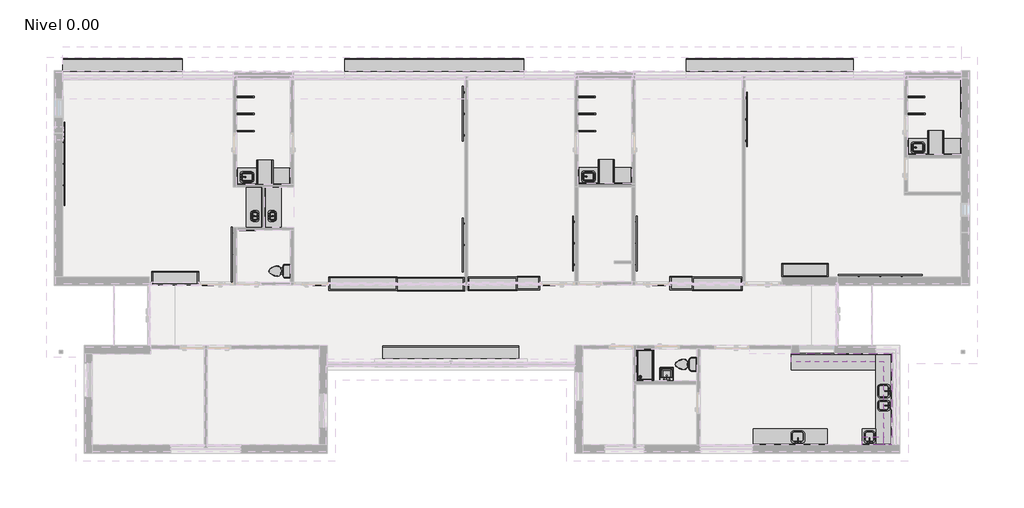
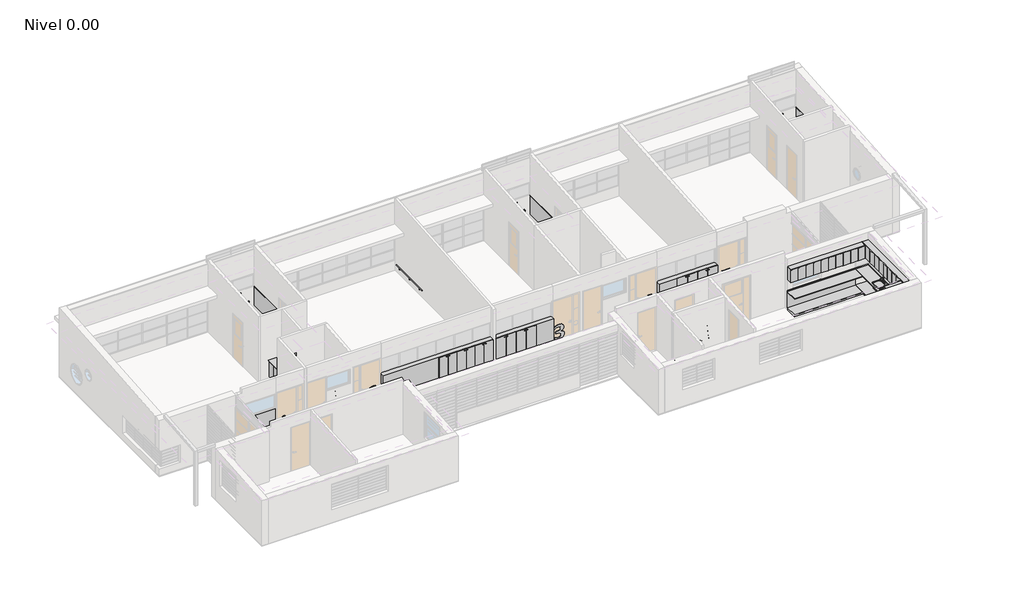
# One storey, part 27 of 27: 32 furniture elements, 31 proxies, 13 flow terminals, 8 railings.
"""IFC4 building model written with IfcOpenShell, lengths in millimetres."""

from ifc_helpers import new_model, si_unit, point, frame, frame_2d, origin, place, context, project, spatial, polyline, circle_curve, trimmed, segment, composite_curve, outline, extrude, transform, mapped, element, save
from components import generic_models_33ff339d, generic_models_d6cf0f50, generic_models_8d675eae, generic_models_3f5acc9a, m_support_metal_circular_m_support_metal_circular_0da74429, flow_terminal_400x300mm_7964804b, flow_terminal_400x300mm_a22b8487, flow_terminal_400x500mm_d8bb822e, flow_terminal_400x440x750mm_a241357f, flow_terminal_400x500x125mm_b4930f80, flow_terminal_500x440x750mm_21f9f58f, flow_terminal_650x1200mm_124ab80b, m_toilet_domestic_3d_5cb52bd4, m_toilet_domestic_3d_183bbd19, furniture_e9a0386f, furniture_bf1a8815, furniture_e75571a7, furniture_ace2ff6d, furniture_eb19d553, furniture_5edcbb02, furniture_b7d6b4a0, furniture_0b69f997, furniture_ac1298f6, furniture_628cf03d, furniture_7d591ccb, furniture_01e2f433, furniture_78a649b8, furniture_1400x900x10_f33f94d3, furniture_1800x900x10_4b911792, furniture_600x1200x10_10085fb0

model = new_model("IFC4")

# Units and contexts
model_context = context("Model", 3, world=origin())
ifc_project = project(units=[si_unit("LENGTHUNIT", "METRE", prefix="MILLI")], contexts=[model_context])

# Site, building, storey
site = spatial("IfcSite", under=ifc_project)
building = spatial("IfcBuilding", under=site)
storey = spatial("IfcBuildingStorey", under=building, Name="Nivel 0.00", Elevation=0.0)

# Proxies
placement = place(None, origin())
element("IfcBuildingElementProxy", 1, Name="700mm CALIBRI", ObjectType="700mm CALIBRI", at=placement, inside=storey, context=model_context, shape_type="SweptSolid", body=[
    extrude(outline(polyline([(254.0711728, -10193.7272676), (279.9312208, -10195.0994334), (296.7138642, -10199.4270333), (306.0023712, -10206.3934135), (308.9578053, -10215.2597157), (308.9578053, -10328.8328244), (886.7451631, -10328.8328244), (894.7670556, -10330.8382975), (899.833514, -10339.0712924), (902.5778456, -10357.3316528), (903.4222553, -10388.7859153), (903.1056017, -10414.540412), (902.0500895, -10430.6897481), (899.9390652, -10440.7171137), (896.455875, -10447.0501867), (798.5043463, -10593.5552748), (790.4824539, -10603.5826404), (780.6661908, -10609.3879573), (766.2056742, -10612.0267377), (744.673226, -10612.5544938), (712.7967587, -10610.9712255), (696.7529739, -10604.9548062), (693.6128252, -10599.730021), (693.4808861, -10592.9219675), (700.7639201, -10573.0783389), (768.3166985, -10463.9383813), (308.9578053, -10463.9383813), (308.9578053, -10591.8664554), (306.0023712, -10600.4161039), (296.7138642, -10606.9602793), (279.9312208, -10611.182328), (254.0711728, -10612.5544938), (228.8444321, -10610.9712255), (212.2728911, -10606.4325232), (203.5121402, -10599.7827966), (200.8733598, -10591.8664554), (200.8733598, -10214.8375108), (203.5121402, -10206.4989648), (212.2728911, -10199.8492381), (228.8444321, -10195.3105358), (254.0711728, -10193.7272676)])), frame((0.0, -850.6093113, 0.0), z_axis=(0.0, 1.0, 0.0), x_axis=(0.0, 0.0, 1.0)), (0.0, 0.0, 1.0), 10.0),
])
element("IfcBuildingElementProxy", 2, Name="700mm CALIBRI", ObjectType="700mm CALIBRI", at=placement, inside=storey, context=model_context, shape_type="SweptSolid", body=[
    extrude(outline(polyline([(261.8819628, -6030.8088472), (289.6419327, -6032.3921154), (308.5356004, -6037.2474714), (319.090722, -6045.0582614), (322.4683609, -6054.8745245), (322.4683609, -6328.0410722), (406.909334, -6246.9777381), (463.5903371, -6191.774452), (512.8827551, -6148.6040046), (556.5017952, -6115.6456373), (596.1626647, -6091.0785917), (632.5778344, -6074.1903971), (666.4597748, -6064.2685828), (699.3125908, -6059.4396146), (732.6403874, -6057.8299586), (770.4277228, -6061.1812097), (805.681829, -6071.234963), (837.3735817, -6088.0967698), (864.4738565, -6111.8721813), (886.5340607, -6142.613973), (903.1056017, -6180.3749207), (913.4760087, -6225.1022486), (916.932811, -6276.7431811), (915.2439915, -6310.9417752), (910.1775332, -6343.8737547), (893.6059922, -6402.8768846), (873.3401587, -6447.8417027), (856.7686177, -6472.9628922), (846.3190473, -6482.5680529), (836.1861306, -6486.8956527), (822.4644724, -6489.3233307), (802.9374974, -6490.1677404), (773.5942593, -6488.7955746), (754.4894892, -6485.3123845), (744.3565724, -6479.71817), (741.2955871, -6471.3796239), (749.8452356, -6452.0637514), (768.6333521, -6421.2427962), (787.104815, -6378.3890024), (793.2795611, -6352.185913), (795.3378099, -6322.3413066), (793.4906636, -6301.3893901), (787.9492247, -6283.2873565), (779.1884738, -6268.0352058), (767.6833912, -6255.6329379), (753.6714672, -6246.0013894), (737.3901921, -6239.0613969), (700.5528176, -6233.4671824), (660.4433555, -6238.0058847), (614.2119227, -6254.8940794), (558.691983, -6289.3037759), (491.350307, -6347.2513936), (360.2556964, -6467.7908826), (338.617697, -6485.1012821), (318.3518635, -6496.1841598), (294.7083911, -6502.0950279), (262.7263725, -6503.6782961), (230.744354, -6501.2506181), (211.8506863, -6493.3342769), (203.0899353, -6479.1904139), (200.8733598, -6458.5023755), (200.8733598, -6053.185705), (204.0398963, -6043.3694419), (214.5950179, -6036.2975104), (233.699788, -6032.181013), (261.8819628, -6030.8088472)])), frame((0.0, -850.6078399, 0.0), z_axis=(0.0, 1.0, 0.0), x_axis=(0.0, 0.0, 1.0)), (0.0, 0.0, 1.0), 10.0),
])
element("IfcBuildingElementProxy", 3, Name="700mm CALIBRI", ObjectType="700mm CALIBRI", at=placement, inside=storey, context=model_context, shape_type="SweptSolid", body=[
    extrude(outline(polyline([(409.864768, 2509.806752), (440.9232134, 2507.1415838), (469.9234101, 2499.1460792), (496.4431532, 2486.1632796), (520.0602378, 2468.5362265), (540.3524591, 2446.3704711), (556.8976123, 2419.7715646), (569.0096144, 2389.0825484), (576.0023824, 2354.6464641), (577.6912019, 2354.6464641), (586.9797089, 2384.2535803), (600.0680597, 2410.1664039), (616.6659885, 2432.2266081), (636.4832294, 2450.2758661), (659.3614555, 2464.3669534), (685.1423401, 2474.5526458), (713.430066, 2480.727392), (743.8288163, 2482.7856407), (782.3286224, 2479.2496749), (816.7647068, 2468.6417777), (846.6093132, 2451.1466636), (871.3346856, 2426.9490473), (890.8880484, 2396.1808677), (905.216626, 2358.974064), (914.0037648, 2315.6189019), (916.932811, 2266.4056473), (915.2176037, 2227.7739022), (910.0719819, 2192.0975911), (893.3948898, 2131.7222953), (873.2346075, 2088.3407455), (858.0352323, 2065.5416827), (849.0633789, 2057.4142391), (839.2471158, 2053.1921904), (825.1032528, 2050.9756149), (803.7819072, 2050.4478588), (778.4496152, 2051.6089222), (763.5668938, 2055.0921123), (756.6005135, 2060.8974292), (754.8061428, 2069.0248729), (763.4613425, 2090.557321), (782.1439078, 2126.4447345), (800.5098195, 2174.1538843), (806.763729, 2201.5972005), (808.8483655, 2230.7293362), (807.1595461, 2255.5866476), (802.0930877, 2276.9607689), (794.1239709, 2294.7989245), (783.7271761, 2309.0483387), (771.0610301, 2319.9728896), (756.2838598, 2327.8364552), (739.9761969, 2332.5862599), (722.7185731, 2334.1695282), (700.5264298, 2331.8737892), (680.3925353, 2324.9865723), (662.6863188, 2313.6925922), (647.7772095, 2298.1765634), (635.8235343, 2278.4912616), (626.9836199, 2254.6894623), (621.5213445, 2226.9558802), (619.700586, 2195.47523), (619.700586, 2130.4556807), (617.4840104, 2118.6339445), (609.6732204, 2110.6120521), (593.7349868, 2105.9677986), (567.1360803, 2104.4900815), (538.7428031, 2105.8622474), (521.7490573, 2110.6120521), (513.6216136, 2118.9505982), (511.6161405, 2131.088988), (511.6161405, 2192.9420008), (509.6106674, 2229.6474362), (503.5942481, 2261.2336377), (493.909924, 2287.7533808), (480.9007366, 2309.2594411), (464.7514005, 2325.9365333), (445.6466303, 2337.9693719), (423.7711408, 2345.2524059), (399.3096464, 2347.6800838), (376.7744617, 2345.6746107), (356.4558526, 2339.6581914), (338.6968604, 2329.5516625), (323.8405267, 2315.2758604), (311.9132393, 2297.2002147), (302.9413859, 2275.6941543), (297.3207837, 2250.6257405), (295.4472496, 2221.863034), (297.5846617, 2187.8755424), (303.9968981, 2157.6878945), (322.4683609, 2108.3954765), (340.9398238, 2073.7746776), (349.4894723, 2054.6699075), (346.9034675, 2046.9118931), (339.1454531, 2041.3704542), (324.6849365, 2038.0455909), (301.991425, 2036.9373031), (274.4425575, 2037.7817129), (255.4433386, 2040.5260445), (242.3549878, 2044.8536443), (232.3276222, 2052.2422295), (219.9781299, 2073.0358191), (204.6732036, 2113.1452813), (192.3237113, 2169.1929771), (187.3628041, 2237.0624092), (191.0307089, 2294.2975562), (202.0344232, 2346.9412253), (220.110069, 2393.7004141), (244.9937682, 2433.2821202), (276.5799697, 2465.3433022), (314.7631221, 2489.5409185), (359.2793476, 2504.7402937), (409.864768, 2509.806752)])), frame((0.0, -850.6047653, 0.0), z_axis=(0.0, 1.0, 0.0), x_axis=(0.0, 0.0, 1.0)), (0.0, 0.0, 1.0), 10.0),
])
element("IfcBuildingElementProxy", 4, Name="700mm CALIBRI", ObjectType="700mm CALIBRI", at=placement, inside=storey, context=model_context, shape_type="SweptSolid", body=[
    extrude(outline(polyline([(403.1094902, 6619.1180849), (428.2570674, 6617.61398), (445.013323, 6613.1016655), (454.4337691, 6606.4783267), (457.5739178, 6598.6411489), (457.5739178, 6538.0547508), (880.2009877, 6538.0547508), (890.4394557, 6532.7771899), (897.7224896, 6515.9945466), (902.0500895, 6485.3846938), (903.4222553, 6439.2588123), (902.3667432, 6396.1939161), (898.883553, 6366.850678), (892.8671337, 6348.80142), (884.4230364, 6339.8295666), (499.7944043, 6123.4495732), (481.0062878, 6114.5832711), (462.2181713, 6109.200159), (440.0524159, 6106.5613786), (411.1313826, 6105.7169689), (378.4105056, 6107.6168908), (359.6223891, 6113.5277589), (351.283843, 6123.4495732), (349.4894723, 6136.9601289), (349.4894723, 6402.9491939), (222.6169103, 6402.9491939), (213.1173009, 6405.904628), (206.362023, 6416.5653008), (202.2455256, 6437.3588904), (200.8733598, 6469.6575626), (202.2455256, 6502.8006445), (206.362023, 6523.6997853), (213.1173009, 6534.8882143), (222.6169103, 6538.0547508), (349.4894723, 6538.0547508), (349.4894723, 6598.6411489), (352.893499, 6607.1380218), (363.1055792, 6613.6294216), (379.9146104, 6617.745919), (403.1094902, 6619.1180849)]), holes=[polyline([(781.8272542, 6402.9491939), (457.5739178, 6402.9491939), (457.5739178, 6213.8014144), (781.8272542, 6402.9491939)])]), frame((0.0, -850.6093113, 0.0), z_axis=(0.0, 1.0, 0.0), x_axis=(0.0, 0.0, 1.0)), (0.0, 0.0, 1.0), 10.0),
])
element("IfcBuildingElementProxy", 5, Name="700mm CALIBRI", ObjectType="700mm CALIBRI", at=placement, inside=storey, context=model_context, shape_type="SweptSolid", body=[
    extrude(outline(polyline([(428.0195772, 10166.0125104), (475.4384611, 10162.1335032), (516.7881501, 10150.4964816), (551.9630929, 10131.3917114), (580.8577384, 10105.1094586), (603.4984743, 10071.781662), (619.9116884, 10031.5402608), (629.8862783, 9984.6755208), (633.2111417, 9931.4777078), (632.6833856, 9892.529309), (630.0446052, 9855.2697296), (781.8272542, 9855.2697296), (781.8272542, 10103.3150879), (785.4687711, 10112.8146974), (796.393322, 10119.7810776), (815.4453166, 10124.0559019), (843.4691645, 10125.4808433), (871.3346856, 10124.1086775), (889.9116996, 10119.7810776), (900.1501676, 10112.3924925), (903.4222553, 10103.1039855), (903.4222553, 9769.1399372), (901.0209652, 9753.0961523), (893.8170946, 9742.1188258), (881.1773365, 9735.7857528), (862.4683834, 9733.6747285), (555.7365489, 9733.6747285), (537.7664543, 9735.3899358), (526.498862, 9740.5355575), (520.5616061, 9749.63935), (518.5825208, 9763.229069), (521.8546085, 9812.3103846), (525.1266962, 9870.0468999), (523.3323255, 9906.9634378), (517.9492135, 9937.916332), (508.9509723, 9963.2750117), (496.3112141, 9983.4089062), (480.2674293, 9998.6082813), (461.0571079, 10009.163403), (438.8121891, 10015.3381491), (413.6646118, 10017.3963978), (384.822742, 10014.9423321), (360.3612476, 10007.5801347), (339.9898628, 9995.7056229), (323.4183219, 9979.7146136), (310.7521759, 9959.6862703), (302.0969762, 9935.6997564), (297.1096812, 9908.3092158), (295.4472496, 9878.0687924), (297.0305178, 9844.1340763), (301.7803225, 9815.3713699), (315.7130831, 9770.8287566), (329.6458436, 9741.2744161), (335.9789166, 9724.5973239), (333.234585, 9717.1031875), (323.946078, 9711.2978706), (306.7412297, 9707.7091293), (280.8811817, 9706.6536171), (256.3932995, 9707.1813732), (239.1884513, 9709.0812951), (227.4722663, 9712.5644852), (218.5004129, 9719.3197631), (209.3174571, 9738.8467381), (199.0789891, 9777.0562784), (190.6348918, 9829.6207841), (187.3628041, 9891.3682456), (191.4265259, 9950.3977633), (203.6176914, 10003.7802909), (223.4877079, 10050.7241944), (250.5879827, 10090.4378395), (284.8129645, 10122.4462458), (326.0571023, 10146.2744329), (373.9245789, 10161.077991), (428.0195772, 10166.0125104)])), frame((0.0, -860.5891831, 0.0), z_axis=(0.0, 1.0, 0.0), x_axis=(0.0, 0.0, 1.0)), (0.0, 0.0, 1.0), 10.0),
])
generic_models_shape = generic_models_33ff339d(model_context)
element("IfcBuildingElementProxy", 6, Name="ARQ_BANCA_T3 : ARQ_BANCA_T3", ObjectType="ARQ_BANCA_T3 : ARQ_BANCA_T3", at=placement, inside=storey, context=model_context, shape_type="MappedRepresentation", body=[
    mapped(generic_models_shape, transform((-13580.5250276, 7109.43912, 0.0), x_axis=(1.0, 0.0, 0.0), y_axis=(0.0, 1.0, 0.0), z_axis=(0.0, 0.0, 1.0))),
])
generic_models_2_shape = generic_models_d6cf0f50(model_context)
element("IfcBuildingElementProxy", 7, Name="ARQ_BANCA_T3 : ARQ_BANCA_T3", ObjectType="ARQ_BANCA_T3 : ARQ_BANCA_T3", at=placement, inside=storey, context=model_context, shape_type="MappedRepresentation", body=[
    mapped(generic_models_2_shape, transform((-1990.3268072, 7109.43912, 0.0), x_axis=(1.0, 0.0, 0.0), y_axis=(0.0, 1.0, 0.0), z_axis=(0.0, 0.0, 1.0))),
])
generic_models_3_shape = generic_models_8d675eae(model_context)
element("IfcBuildingElementProxy", 8, Name="ARQ_BANCA_T3 : ARQ_BANCA_T3", ObjectType="ARQ_BANCA_T3 : ARQ_BANCA_T3", at=placement, inside=storey, context=model_context, shape_type="MappedRepresentation", body=[
    mapped(generic_models_3_shape, transform((10479.8052391, 7109.43912, 0.0), x_axis=(1.0, 0.0, 0.0), y_axis=(0.0, 1.0, 0.0), z_axis=(0.0, 0.0, 1.0))),
])
generic_models_4_shape = generic_models_3f5acc9a(model_context)
element("IfcBuildingElementProxy", 9, Name="ARQ_BANCA_T3 : ARQ_BANCA_T3", ObjectType="ARQ_BANCA_T3 : ARQ_BANCA_T3", at=placement, inside=storey, context=model_context, shape_type="MappedRepresentation", body=[
    mapped(generic_models_4_shape, transform((-1371.1221231, -3590.5609004, 0.0), x_axis=(1.0, 0.0, 0.0), y_axis=(0.0, 1.0, 0.0), z_axis=(0.0, 0.0, 1.0))),
])
m_support_metal_circular_m_support_metal_circular_shape = m_support_metal_circular_m_support_metal_circular_0da74429(model_context)
element("IfcBuildingElementProxy", 10, Name="M_Support - Metal - Circular : M_Support - Metal - Circular", ObjectType="M_Support - Metal - Circular : M_Support - Metal - Circular", at=placement, inside=storey, context=model_context, shape_type="MappedRepresentation", body=[
    mapped(m_support_metal_circular_m_support_metal_circular_shape, transform((-15740.8995201, 2870.7462456, 420.0), x_axis=(0.0, 1.0, 0.0), y_axis=(-1.0, 0.0, 0.0), z_axis=(0.0, 0.0, 1.0))),
])
element("IfcBuildingElementProxy", 11, Name="M_Support - Metal - Circular : M_Support - Metal - Circular", ObjectType="M_Support - Metal - Circular : M_Support - Metal - Circular", at=placement, inside=storey, context=model_context, shape_type="MappedRepresentation", body=[
    mapped(m_support_metal_circular_m_support_metal_circular_shape, transform((-15740.8995201, 3670.7462456, 420.0), x_axis=(0.0, 1.0, 0.0), y_axis=(-1.0, 0.0, 0.0), z_axis=(0.0, 0.0, 1.0))),
])
element("IfcBuildingElementProxy", 12, Name="M_Support - Metal - Circular : M_Support - Metal - Circular", ObjectType="M_Support - Metal - Circular : M_Support - Metal - Circular", at=placement, inside=storey, context=model_context, shape_type="MappedRepresentation", body=[
    mapped(m_support_metal_circular_m_support_metal_circular_shape, transform((-15740.8995201, 4470.7462456, 420.0), x_axis=(0.0, 1.0, 0.0), y_axis=(-1.0, 0.0, 0.0), z_axis=(0.0, 0.0, 1.0))),
])
element("IfcBuildingElementProxy", 13, Name="M_Support - Metal - Circular : M_Support - Metal - Circular", ObjectType="M_Support - Metal - Circular : M_Support - Metal - Circular", at=placement, inside=storey, context=model_context, shape_type="MappedRepresentation", body=[
    mapped(m_support_metal_circular_m_support_metal_circular_shape, transform((-9520.5924627, 1100.0982443, 420.0), x_axis=(0.0, -1.0, 0.0), y_axis=(1.0, 0.0, 0.0), z_axis=(0.0, 0.0, 1.0))),
])
element("IfcBuildingElementProxy", 14, Name="M_Support - Metal - Circular : M_Support - Metal - Circular", ObjectType="M_Support - Metal - Circular : M_Support - Metal - Circular", at=placement, inside=storey, context=model_context, shape_type="MappedRepresentation", body=[
    mapped(m_support_metal_circular_m_support_metal_circular_shape, transform((-9520.5924627, 300.0982443, 420.0), x_axis=(0.0, -1.0, 0.0), y_axis=(1.0, 0.0, 0.0), z_axis=(0.0, 0.0, 1.0))),
])
element("IfcBuildingElementProxy", 15, Name="M_Support - Metal - Circular : M_Support - Metal - Circular", ObjectType="M_Support - Metal - Circular : M_Support - Metal - Circular", at=placement, inside=storey, context=model_context, shape_type="MappedRepresentation", body=[
    mapped(m_support_metal_circular_m_support_metal_circular_shape, transform((-930.5693128, 1451.7268932, 420.0), x_axis=(0.0, -1.0, 0.0), y_axis=(1.0, 0.0, 0.0), z_axis=(0.0, 0.0, 1.0))),
])
element("IfcBuildingElementProxy", 16, Name="M_Support - Metal - Circular : M_Support - Metal - Circular", ObjectType="M_Support - Metal - Circular : M_Support - Metal - Circular", at=placement, inside=storey, context=model_context, shape_type="MappedRepresentation", body=[
    mapped(m_support_metal_circular_m_support_metal_circular_shape, transform((-930.5693128, 651.7268932, 420.0), x_axis=(0.0, -1.0, 0.0), y_axis=(1.0, 0.0, 0.0), z_axis=(0.0, 0.0, 1.0))),
])
element("IfcBuildingElementProxy", 17, Name="M_Support - Metal - Circular : M_Support - Metal - Circular", ObjectType="M_Support - Metal - Circular : M_Support - Metal - Circular", at=placement, inside=storey, context=model_context, shape_type="MappedRepresentation", body=[
    mapped(m_support_metal_circular_m_support_metal_circular_shape, transform((-930.5693128, 6335.5914588, 420.0), x_axis=(0.0, -1.0, 0.0), y_axis=(1.0, 0.0, 0.0), z_axis=(0.0, 0.0, 1.0))),
])
element("IfcBuildingElementProxy", 18, Name="M_Support - Metal - Circular : M_Support - Metal - Circular", ObjectType="M_Support - Metal - Circular : M_Support - Metal - Circular", at=placement, inside=storey, context=model_context, shape_type="MappedRepresentation", body=[
    mapped(m_support_metal_circular_m_support_metal_circular_shape, transform((-930.5693128, 5535.5914588, 420.0), x_axis=(0.0, -1.0, 0.0), y_axis=(1.0, 0.0, 0.0), z_axis=(0.0, 0.0, 1.0))),
])
element("IfcBuildingElementProxy", 19, Name="M_Support - Metal - Circular : M_Support - Metal - Circular", ObjectType="M_Support - Metal - Circular : M_Support - Metal - Circular", at=placement, inside=storey, context=model_context, shape_type="MappedRepresentation", body=[
    mapped(m_support_metal_circular_m_support_metal_circular_shape, transform((-930.5693128, 4735.5914588, 420.0), x_axis=(0.0, -1.0, 0.0), y_axis=(1.0, 0.0, 0.0), z_axis=(0.0, 0.0, 1.0))),
])
element("IfcBuildingElementProxy", 20, Name="M_Support - Metal - Circular : M_Support - Metal - Circular", ObjectType="M_Support - Metal - Circular : M_Support - Metal - Circular", at=placement, inside=storey, context=model_context, shape_type="MappedRepresentation", body=[
    mapped(m_support_metal_circular_m_support_metal_circular_shape, transform((3169.3810741, 1513.1228395, 420.0), x_axis=(0.0, -1.0, 0.0), y_axis=(1.0, 0.0, 0.0), z_axis=(0.0, 0.0, 1.0))),
])
element("IfcBuildingElementProxy", 21, Name="M_Support - Metal - Circular : M_Support - Metal - Circular", ObjectType="M_Support - Metal - Circular : M_Support - Metal - Circular", at=placement, inside=storey, context=model_context, shape_type="MappedRepresentation", body=[
    mapped(m_support_metal_circular_m_support_metal_circular_shape, transform((3169.3810741, 713.1228395, 420.0), x_axis=(0.0, -1.0, 0.0), y_axis=(1.0, 0.0, 0.0), z_axis=(0.0, 0.0, 1.0))),
])
element("IfcBuildingElementProxy", 22, Name="M_Support - Metal - Circular : M_Support - Metal - Circular", ObjectType="M_Support - Metal - Circular : M_Support - Metal - Circular", at=placement, inside=storey, context=model_context, shape_type="MappedRepresentation", body=[
    mapped(m_support_metal_circular_m_support_metal_circular_shape, transform((3169.3810741, -86.8771605, 420.0), x_axis=(0.0, -1.0, 0.0), y_axis=(1.0, 0.0, 0.0), z_axis=(0.0, 0.0, 1.0))),
])
element("IfcBuildingElementProxy", 23, Name="M_Support - Metal - Circular : M_Support - Metal - Circular", ObjectType="M_Support - Metal - Circular : M_Support - Metal - Circular", at=placement, inside=storey, context=model_context, shape_type="MappedRepresentation", body=[
    mapped(m_support_metal_circular_m_support_metal_circular_shape, transform((5539.4935517, -86.8771605, 420.0), x_axis=(0.0, 1.0, 0.0), y_axis=(-1.0, 0.0, 0.0), z_axis=(0.0, 0.0, 1.0))),
])
element("IfcBuildingElementProxy", 24, Name="M_Support - Metal - Circular : M_Support - Metal - Circular", ObjectType="M_Support - Metal - Circular : M_Support - Metal - Circular", at=placement, inside=storey, context=model_context, shape_type="MappedRepresentation", body=[
    mapped(m_support_metal_circular_m_support_metal_circular_shape, transform((5539.4935517, 713.1228395, 420.0), x_axis=(0.0, 1.0, 0.0), y_axis=(-1.0, 0.0, 0.0), z_axis=(0.0, 0.0, 1.0))),
])
element("IfcBuildingElementProxy", 25, Name="M_Support - Metal - Circular : M_Support - Metal - Circular", ObjectType="M_Support - Metal - Circular : M_Support - Metal - Circular", at=placement, inside=storey, context=model_context, shape_type="MappedRepresentation", body=[
    mapped(m_support_metal_circular_m_support_metal_circular_shape, transform((5539.4935517, 1513.1228395, 420.0), x_axis=(0.0, 1.0, 0.0), y_axis=(-1.0, 0.0, 0.0), z_axis=(0.0, 0.0, 1.0))),
])
element("IfcBuildingElementProxy", 26, Name="M_Support - Metal - Circular : M_Support - Metal - Circular", ObjectType="M_Support - Metal - Circular : M_Support - Metal - Circular", at=placement, inside=storey, context=model_context, shape_type="MappedRepresentation", body=[
    mapped(m_support_metal_circular_m_support_metal_circular_shape, transform((9639.3567784, 4526.1849169, 420.0), x_axis=(0.0, 1.0, 0.0), y_axis=(-1.0, 0.0, 0.0), z_axis=(0.0, 0.0, 1.0))),
])
element("IfcBuildingElementProxy", 27, Name="M_Support - Metal - Circular : M_Support - Metal - Circular", ObjectType="M_Support - Metal - Circular : M_Support - Metal - Circular", at=placement, inside=storey, context=model_context, shape_type="MappedRepresentation", body=[
    mapped(m_support_metal_circular_m_support_metal_circular_shape, transform((9639.3567784, 5326.1849169, 420.0), x_axis=(0.0, 1.0, 0.0), y_axis=(-1.0, 0.0, 0.0), z_axis=(0.0, 0.0, 1.0))),
])
element("IfcBuildingElementProxy", 28, Name="M_Support - Metal - Circular : M_Support - Metal - Circular", ObjectType="M_Support - Metal - Circular : M_Support - Metal - Circular", at=placement, inside=storey, context=model_context, shape_type="MappedRepresentation", body=[
    mapped(m_support_metal_circular_m_support_metal_circular_shape, transform((9639.3567784, 6126.1849169, 420.0), x_axis=(0.0, 1.0, 0.0), y_axis=(-1.0, 0.0, 0.0), z_axis=(0.0, 0.0, 1.0))),
])
element("IfcBuildingElementProxy", 29, Name="M_Support - Metal - Circular : M_Support - Metal - Circular", ObjectType="M_Support - Metal - Circular : M_Support - Metal - Circular", at=placement, inside=storey, context=model_context, shape_type="MappedRepresentation", body=[
    mapped(m_support_metal_circular_m_support_metal_circular_shape, transform((15390.2121637, -468.1235845, 420.0), x_axis=(-1.0, 0.0, 0.0), y_axis=(0.0, -1.0, 0.0), z_axis=(0.0, 0.0, 1.0))),
])
element("IfcBuildingElementProxy", 30, Name="M_Support - Metal - Circular : M_Support - Metal - Circular", ObjectType="M_Support - Metal - Circular : M_Support - Metal - Circular", at=placement, inside=storey, context=model_context, shape_type="MappedRepresentation", body=[
    mapped(m_support_metal_circular_m_support_metal_circular_shape, transform((14590.2121637, -468.1235845, 420.0), x_axis=(-1.0, 0.0, 0.0), y_axis=(0.0, -1.0, 0.0), z_axis=(0.0, 0.0, 1.0))),
])
element("IfcBuildingElementProxy", 31, Name="M_Support - Metal - Circular : M_Support - Metal - Circular", ObjectType="M_Support - Metal - Circular : M_Support - Metal - Circular", at=placement, inside=storey, context=model_context, shape_type="MappedRepresentation", body=[
    mapped(m_support_metal_circular_m_support_metal_circular_shape, transform((13790.2121637, -468.1235845, 420.0), x_axis=(-1.0, 0.0, 0.0), y_axis=(0.0, -1.0, 0.0), z_axis=(0.0, 0.0, 1.0))),
])

# Flow terminals
flow_terminal_400x300mm_shape = flow_terminal_400x300mm_7964804b(model_context)
element("IfcFlowTerminal", 32, ObjectType="ARQ_VANITORIO : 400X300mm", at=placement, inside=storey, context=model_context, shape_type="MappedRepresentation", body=[
    mapped(flow_terminal_400x300mm_shape, transform((-7983.5238439, 1714.1310198, 0.0), x_axis=(0.0, 1.0, 0.0), y_axis=(-1.0, 0.0, 0.0), z_axis=(0.0, 0.0, 1.0))),
])
flow_terminal_400x300mm_2_shape = flow_terminal_400x300mm_a22b8487(model_context)
element("IfcFlowTerminal", 33, ObjectType="ARQ_VANITORIO : 400X300mm", at=placement, inside=storey, context=model_context, shape_type="MappedRepresentation", body=[
    mapped(flow_terminal_400x300mm_2_shape, transform((-8687.6146461, 1714.1310198, 0.0), x_axis=(0.0, 1.0, 0.0), y_axis=(-1.0, 0.0, 0.0), z_axis=(0.0, 0.0, 1.0))),
])
flow_terminal_400x500mm_shape = flow_terminal_400x500mm_d8bb822e(model_context)
element("IfcFlowTerminal", 34, ObjectType="ARQ_VANITORIO : 400X500mm", at=placement, inside=storey, context=model_context, shape_type="MappedRepresentation", body=[
    mapped(flow_terminal_400x500mm_shape, transform((-9019.9987458, 3196.9844673, 0.0), x_axis=(0.0, -1.0, 0.0), y_axis=(1.0, 0.0, 0.0), z_axis=(0.0, 0.0, 1.0))),
])
element("IfcFlowTerminal", 35, ObjectType="ARQ_VANITORIO : 400X500mm", at=placement, inside=storey, context=model_context, shape_type="MappedRepresentation", body=[
    mapped(flow_terminal_400x500mm_shape, transform((3670.3316856, 3216.9844753, 0.0), x_axis=(0.0, -1.0, 0.0), y_axis=(1.0, 0.0, 0.0), z_axis=(0.0, 0.0, 1.0))),
])
element("IfcFlowTerminal", 36, ObjectType="ARQ_VANITORIO : 400X500mm", at=placement, inside=storey, context=model_context, shape_type="MappedRepresentation", body=[
    mapped(flow_terminal_400x500mm_shape, transform((15920.7657644, 4296.6611298, 0.0), x_axis=(0.0, -1.0, 0.0), y_axis=(1.0, 0.0, 0.0), z_axis=(0.0, 0.0, 1.0))),
])
flow_terminal_400x440x750mm_shape = flow_terminal_400x440x750mm_a241357f(model_context)
element("IfcFlowTerminal", 37, ObjectType="ARQ_LAVAPLATOS : 400x440x750mm", at=placement, inside=storey, context=model_context, shape_type="MappedRepresentation", body=[
    mapped(flow_terminal_400x440x750mm_shape, transform((14211.1907669, -6528.0851718, 150.0), x_axis=(-1.0, 0.0, 0.0), y_axis=(0.0, -1.0, 0.0), z_axis=(0.0, 0.0, 1.0))),
])
element("IfcFlowTerminal", 38, ObjectType="ARQ_LAVAPLATOS : 400x440x750mm", at=placement, inside=storey, context=model_context, shape_type="MappedRepresentation", body=[
    mapped(flow_terminal_400x440x750mm_shape, transform((14757.9811253, -5304.9163323, 150.0), x_axis=(0.0, -1.0, 0.0), y_axis=(1.0, 0.0, 0.0), z_axis=(0.0, 0.0, 1.0))),
])
flow_terminal_400x500x125mm_shape = flow_terminal_400x500x125mm_b4930f80(model_context)
element("IfcFlowTerminal", 39, ObjectType="ARQ_LAVADO : 400x500x125mm", at=placement, inside=storey, context=model_context, shape_type="MappedRepresentation", body=[
    mapped(flow_terminal_400x500x125mm_shape, transform((6524.9777626, -4470.6056693, 50.0), x_axis=(1.0, 0.0, 0.0), y_axis=(0.0, 1.0, 0.0), z_axis=(0.0, 0.0, 1.0))),
])
flow_terminal_500x440x750mm_shape = flow_terminal_500x440x750mm_21f9f58f(model_context)
element("IfcFlowTerminal", 40, ObjectType="ARQ_LAVAPLATOS : 500x440x750mm", at=placement, inside=storey, context=model_context, shape_type="MappedRepresentation", body=[
    mapped(flow_terminal_500x440x750mm_shape, transform((14757.9811253, -4774.9163323, 150.0), x_axis=(0.0, -1.0, 0.0), y_axis=(1.0, 0.0, 0.0), z_axis=(0.0, 0.0, 1.0))),
])
element("IfcFlowTerminal", 41, ObjectType="ARQ_LAVAPLATOS : 500x440x750mm", at=placement, inside=storey, context=model_context, shape_type="MappedRepresentation", body=[
    mapped(flow_terminal_500x440x750mm_shape, transform((11541.1907669, -6528.0851718, 150.0), x_axis=(-1.0, 0.0, 0.0), y_axis=(0.0, -1.0, 0.0), z_axis=(0.0, 0.0, 1.0))),
])
flow_terminal_650x1200mm_shape = flow_terminal_650x1200mm_124ab80b(model_context)
element("IfcFlowTerminal", 42, ObjectType="ARQ_PLATO_DUCHA : 650X1200mm", at=placement, inside=storey, context=model_context, shape_type="MappedRepresentation", body=[
    mapped(flow_terminal_650x1200mm_shape, transform((5844.9777624, -3810.6056693, 0.0), x_axis=(0.0, 1.0, 0.0), y_axis=(-1.0, 0.0, 0.0), z_axis=(0.0, 0.0, 1.0))),
])
m_toilet_domestic_3d_shape = m_toilet_domestic_3d_5cb52bd4(model_context)
m_toilet_domestic_3d_2_shape = m_toilet_domestic_3d_183bbd19(model_context)
element("IfcFlowTerminal", 43, ObjectType="ARQ_WC_ADULTO : M_Toilet-Domestic-3D", at=placement, inside=storey, context=model_context, shape_type="MappedRepresentation", body=[
    mapped(m_toilet_domestic_3d_shape, transform((-7830.2653127, -320.6078399, 0.0), x_axis=(0.0, -1.0, 0.0), y_axis=(1.0, 0.0, 0.0), z_axis=(0.0, 0.0, 1.0))),
    mapped(m_toilet_domestic_3d_2_shape, transform((-7830.2653127, -320.6078399, 0.0), x_axis=(0.0, -1.0, 0.0), y_axis=(1.0, 0.0, 0.0), z_axis=(0.0, 0.0, 1.0))),
])
element("IfcFlowTerminal", 44, ObjectType="ARQ_WC_ADULTO : M_Toilet-Domestic-3D", at=placement, inside=storey, context=model_context, shape_type="MappedRepresentation", body=[
    mapped(m_toilet_domestic_3d_shape, transform((7275.2817352, -3790.6055729, 0.0), x_axis=(0.0, -1.0000000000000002, 0.0), y_axis=(1.0000000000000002, 0.0, 0.0), z_axis=(0.0, 0.0, 1.0))),
    mapped(m_toilet_domestic_3d_2_shape, transform((7275.2817352, -3790.6055729, 0.0), x_axis=(0.0, -1.0000000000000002, 0.0), y_axis=(1.0000000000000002, 0.0, 0.0), z_axis=(0.0, 0.0, 1.0))),
])

# Furniture
furniture_shape = furniture_e9a0386f(model_context)
element("IfcFurniture", 45, ObjectType="ARQ_MOB_SEPARADOR_BAÑO : SEPARADOR_BAÑO", at=placement, inside=storey, context=model_context, shape_type="MappedRepresentation", body=[
    mapped(furniture_shape, transform((-9055.2695069, 6194.439065, 0.0), x_axis=(1.0, 0.0, 0.0), y_axis=(0.0, 1.0, 0.0), z_axis=(0.0, 0.0, 1.0))),
])
element("IfcFurniture", 46, ObjectType="ARQ_MOB_SEPARADOR_BAÑO : SEPARADOR_BAÑO", at=placement, inside=storey, context=model_context, shape_type="MappedRepresentation", body=[
    mapped(furniture_shape, transform((-9055.2695069, 5554.439065, 0.0), x_axis=(1.0, 0.0, 0.0), y_axis=(0.0, 1.0, 0.0), z_axis=(0.0, 0.0, 1.0))),
])
element("IfcFurniture", 47, ObjectType="ARQ_MOB_SEPARADOR_BAÑO : SEPARADOR_BAÑO", at=placement, inside=storey, context=model_context, shape_type="MappedRepresentation", body=[
    mapped(furniture_shape, transform((-9055.2695069, 4914.439065, 0.0), x_axis=(1.0, 0.0, 0.0), y_axis=(0.0, 1.0, 0.0), z_axis=(0.0, 0.0, 1.0))),
])
element("IfcFurniture", 48, ObjectType="ARQ_MOB_SEPARADOR_BAÑO : SEPARADOR_BAÑO", at=placement, inside=storey, context=model_context, shape_type="MappedRepresentation", body=[
    mapped(furniture_shape, transform((3634.6807477, 6194.439065, 0.0), x_axis=(1.0, 0.0, 0.0), y_axis=(0.0, 1.0, 0.0), z_axis=(0.0, 0.0, 1.0))),
])
element("IfcFurniture", 49, ObjectType="ARQ_MOB_SEPARADOR_BAÑO : SEPARADOR_BAÑO", at=placement, inside=storey, context=model_context, shape_type="MappedRepresentation", body=[
    mapped(furniture_shape, transform((3635.0609245, 5554.439065, 0.0), x_axis=(1.0, 0.0, 0.0), y_axis=(0.0, 1.0, 0.0), z_axis=(0.0, 0.0, 1.0))),
])
element("IfcFurniture", 50, ObjectType="ARQ_MOB_SEPARADOR_BAÑO : SEPARADOR_BAÑO", at=placement, inside=storey, context=model_context, shape_type="MappedRepresentation", body=[
    mapped(furniture_shape, transform((3635.0609245, 4914.439065, 0.0), x_axis=(1.0, 0.0, 0.0), y_axis=(0.0, 1.0, 0.0), z_axis=(0.0, 0.0, 1.0))),
])
element("IfcFurniture", 51, ObjectType="ARQ_MOB_SEPARADOR_BAÑO : SEPARADOR_BAÑO", at=placement, inside=storey, context=model_context, shape_type="MappedRepresentation", body=[
    mapped(furniture_shape, transform((15885.4950033, 6194.439065, 0.0), x_axis=(1.0, 0.0, 0.0), y_axis=(0.0, 1.0, 0.0), z_axis=(0.0, 0.0, 1.0))),
])
element("IfcFurniture", 52, ObjectType="ARQ_MOB_SEPARADOR_BAÑO : SEPARADOR_BAÑO", at=placement, inside=storey, context=model_context, shape_type="MappedRepresentation", body=[
    mapped(furniture_shape, transform((15885.8751802, 5554.439065, 0.0), x_axis=(1.0, 0.0, 0.0), y_axis=(0.0, 1.0, 0.0), z_axis=(0.0, 0.0, 1.0))),
])
furniture_2_shape = furniture_bf1a8815(model_context)
element("IfcFurniture", 53, ObjectType="ARQ_MOB_BAÑO-01 : MUEBLE_BAÑO-01", at=placement, inside=storey, context=model_context, shape_type="MappedRepresentation", body=[
    mapped(furniture_2_shape, transform((-7615.8689467, 2909.3952268, 0.0), x_axis=(-1.0, 0.0, 0.0), y_axis=(0.0, -1.0, 0.0), z_axis=(0.0, 0.0, 1.0))),
])
element("IfcFurniture", 54, ObjectType="ARQ_MOB_BAÑO-01 : MUEBLE_BAÑO-01", at=placement, inside=storey, context=model_context, shape_type="MappedRepresentation", body=[
    mapped(furniture_2_shape, transform((5074.4614848, 2929.3952347, 0.0), x_axis=(-1.0, 0.0, 0.0), y_axis=(0.0, -1.0, 0.0), z_axis=(0.0, 0.0, 1.0))),
])
element("IfcFurniture", 55, ObjectType="ARQ_MOB_BAÑO-01 : MUEBLE_BAÑO-01", at=placement, inside=storey, context=model_context, shape_type="MappedRepresentation", body=[
    mapped(furniture_2_shape, transform((17324.8955636, 4009.0718892, 0.0), x_axis=(-1.0, 0.0, 0.0), y_axis=(0.0, -1.0, 0.0), z_axis=(0.0, 0.0, 1.0))),
])
furniture_3_shape = furniture_e75571a7(model_context)
element("IfcFurniture", 56, ObjectType="ARQ_MOB_BAÑO-02 : MUEBLE_BAÑO-02", at=placement, inside=storey, context=model_context, shape_type="MappedRepresentation", body=[
    mapped(furniture_3_shape, transform((-8915.868854, 2909.3952268, 0.0), x_axis=(-1.0, 0.0, 0.0), y_axis=(0.0, -1.0, 0.0), z_axis=(0.0, 0.0, 1.0))),
])
element("IfcFurniture", 57, ObjectType="ARQ_MOB_BAÑO-02 : MUEBLE_BAÑO-02", at=placement, inside=storey, context=model_context, shape_type="MappedRepresentation", body=[
    mapped(furniture_3_shape, transform((3774.4615774, 2929.3952347, 0.0), x_axis=(-1.0, 0.0, 0.0), y_axis=(0.0, -1.0, 0.0), z_axis=(0.0, 0.0, 1.0))),
])
element("IfcFurniture", 58, ObjectType="ARQ_MOB_BAÑO-02 : MUEBLE_BAÑO-02", at=placement, inside=storey, context=model_context, shape_type="MappedRepresentation", body=[
    mapped(furniture_3_shape, transform((16024.8956562, 4009.0718892, 0.0), x_axis=(-1.0, 0.0, 0.0), y_axis=(0.0, -1.0, 0.0), z_axis=(0.0, 0.0, 1.0))),
])
furniture_4_shape = furniture_ace2ff6d(model_context)
element("IfcFurniture", 59, ObjectType="ARQ_MOB_BAÑO-03 : MUEBLE_BAÑO-03", at=placement, inside=storey, context=model_context, shape_type="MappedRepresentation", body=[
    mapped(furniture_4_shape, transform((-8240.868854, 2909.3952268, 0.0), x_axis=(-1.0, 0.0, 0.0), y_axis=(0.0, -1.0, 0.0), z_axis=(0.0, 0.0, 1.0))),
])
element("IfcFurniture", 60, ObjectType="ARQ_MOB_BAÑO-03 : MUEBLE_BAÑO-03", at=placement, inside=storey, context=model_context, shape_type="MappedRepresentation", body=[
    mapped(furniture_4_shape, transform((4449.4615774, 2929.3952347, 0.0), x_axis=(-1.0, 0.0, 0.0), y_axis=(0.0, -1.0, 0.0), z_axis=(0.0, 0.0, 1.0))),
])
element("IfcFurniture", 61, ObjectType="ARQ_MOB_BAÑO-03 : MUEBLE_BAÑO-03", at=placement, inside=storey, context=model_context, shape_type="MappedRepresentation", body=[
    mapped(furniture_4_shape, transform((16699.8956562, 4009.0718892, 0.0), x_axis=(-1.0, 0.0, 0.0), y_axis=(0.0, -1.0, 0.0), z_axis=(0.0, 0.0, 1.0))),
])
furniture_5_shape = furniture_eb19d553(model_context)
element("IfcFurniture", 62, ObjectType="ARQ_MOB_BAÑO-04 : MUEBLE_BAÑO-04", at=placement, inside=storey, context=model_context, shape_type="MappedRepresentation", body=[
    mapped(furniture_5_shape, transform((-8385.569245, 2104.0955532, 0.0), x_axis=(0.0, -1.0, 0.0), y_axis=(1.0, 0.0, 0.0), z_axis=(0.0, 0.0, 1.0))),
])
furniture_6_shape = furniture_5edcbb02(model_context)
element("IfcFurniture", 63, ObjectType="ARQ_MOB_BAÑO-04 : MUEBLE_BAÑO-04", at=placement, inside=storey, context=model_context, shape_type="MappedRepresentation", body=[
    mapped(furniture_6_shape, transform((-8285.569245, 2104.0955532, 0.0), x_axis=(0.0, -1.0, 0.0), y_axis=(1.0, 0.0, 0.0), z_axis=(0.0, 0.0, 1.0))),
])
furniture_7_shape = furniture_b7d6b4a0(model_context)
element("IfcFurniture", 64, ObjectType="ARQ_MOB_MESONES_COCINA : MESONES_COCINA", at=placement, inside=storey, context=model_context, shape_type="MappedRepresentation", body=[
    mapped(furniture_7_shape, transform((0.0, 0.0, 0.0), x_axis=(1.0, 0.0, 0.0), y_axis=(0.0, 1.0, 0.0), z_axis=(0.0, 0.0, 1.0))),
])
furniture_8_shape = furniture_0b69f997(model_context)
element("IfcFurniture", 65, ObjectType="ARQ_MOB_AEREOS_COCINA : AEREOS_COCINA", at=placement, inside=storey, context=model_context, shape_type="MappedRepresentation", body=[
    mapped(furniture_8_shape, transform((0.0, 0.0, 0.0), x_axis=(1.0, 0.0, 0.0), y_axis=(0.0, 1.0, 0.0), z_axis=(0.0, 0.0, 1.0))),
])
furniture_9_shape = furniture_ac1298f6(model_context)
element("IfcFurniture", 66, ObjectType="MUEBLE_EQ-09 : MUEBLE_EQ-09", at=placement, inside=storey, context=model_context, shape_type="MappedRepresentation", body=[
    mapped(furniture_9_shape, transform((-11580.8663418, -840.6082261, 0.0), x_axis=(-1.0000000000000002, 0.0, 0.0), y_axis=(0.0, -1.0000000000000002, 0.0), z_axis=(0.0, 0.0, 1.0))),
])
element("IfcFurniture", 67, ObjectType="MUEBLE_EQ-09 : MUEBLE_EQ-09", at=placement, inside=storey, context=model_context, shape_type="MappedRepresentation", body=[
    mapped(furniture_9_shape, transform((11839.135718, -533.1235845, 0.0), x_axis=(-1.0, 0.0, 0.0), y_axis=(0.0, -1.0, 0.0), z_axis=(0.0, 0.0, 1.0))),
])
furniture_10_shape = furniture_628cf03d(model_context)
element("IfcFurniture", 68, ObjectType="MUEBLE_EQ-10-11 : MUEBLE_EQ-10-11", at=placement, inside=storey, context=model_context, shape_type="MappedRepresentation", body=[
    mapped(furniture_10_shape, transform((-5070.2704801, -1033.1078399, 0.0), x_axis=(1.0, 0.0, 0.0), y_axis=(0.0, 1.0, 0.0), z_axis=(0.0, 0.0, 1.0))),
])
furniture_11_shape = furniture_7d591ccb(model_context)
element("IfcFurniture", 69, ObjectType="MUEBLE_EQ-12-13 : MUEBLE_EQ-12-13", at=placement, inside=storey, context=model_context, shape_type="MappedRepresentation", body=[
    mapped(furniture_11_shape, transform((134.7303607, -540.6235845, 0.0), x_axis=(1.0, 0.0, 0.0), y_axis=(0.0, 1.0, 0.0), z_axis=(0.0, 0.0, 1.0))),
])
furniture_12_shape = furniture_01e2f433(model_context)
element("IfcFurniture", 70, ObjectType="MUEBLE_EQ-12-13 : MUEBLE_EQ-12-13", at=placement, inside=storey, context=model_context, shape_type="MappedRepresentation", body=[
    mapped(furniture_12_shape, transform((8574.0571049, -540.6235845, 0.0), x_axis=(-1.0, 0.0, 0.0), y_axis=(0.0, -1.0, 0.0), z_axis=(0.0, 0.0, 1.0))),
])
furniture_13_shape = furniture_78a649b8(model_context)
element("IfcFurniture", 71, ObjectType="ARQ_MOB_MESONES_COCINA_2 : MESONES_COCINA", at=placement, inside=storey, context=model_context, shape_type="MappedRepresentation", body=[
    mapped(furniture_13_shape, transform((0.0, 0.0, 0.0), x_axis=(1.0, 0.0, 0.0), y_axis=(0.0, 1.0, 0.0), z_axis=(0.0, 0.0, 1.0))),
])
furniture_1400x900x10_shape = furniture_1400x900x10_f33f94d3(model_context)
element("IfcFurniture", 72, ObjectType="ARQ_MOB_ESPEJO_SOBREPUESTO : 1400X900X10", at=placement, inside=storey, context=model_context, shape_type="MappedRepresentation", body=[
    mapped(furniture_1400x900x10_shape, transform((17597.6952928, 6154.095581, 580.0), x_axis=(0.0, -1.0000000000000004, 0.0), y_axis=(1.0000000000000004, 0.0, 0.0), z_axis=(0.0, 0.0, 1.0))),
])
furniture_1800x900x10_shape = furniture_1800x900x10_4b911792(model_context)
element("IfcFurniture", 73, ObjectType="ARQ_MOB_ESPEJO_SOBREPUESTO : 1800X900X10", at=placement, inside=storey, context=model_context, shape_type="MappedRepresentation", body=[
    mapped(furniture_1800x900x10_shape, transform((-7335.5692731, 5954.1393915, 600.0), x_axis=(0.0, -1.0000000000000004, 0.0), y_axis=(1.0000000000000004, 0.0, 0.0), z_axis=(0.0, 0.0, 1.0))),
])
element("IfcFurniture", 74, ObjectType="ARQ_MOB_ESPEJO_SOBREPUESTO : 1800X900X10", at=placement, inside=storey, context=model_context, shape_type="MappedRepresentation", body=[
    mapped(furniture_1800x900x10_shape, transform((5354.4934237, 5954.1393915, 580.0), x_axis=(0.0, -1.0000000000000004, 0.0), y_axis=(1.0000000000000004, 0.0, 0.0), z_axis=(0.0, 0.0, 1.0))),
])
furniture_600x1200x10_shape = furniture_600x1200x10_10085fb0(model_context)
element("IfcFurniture", 75, ObjectType="ARQ_MOB_ESPEJO_SOBREPUESTO : 600X1200X10", at=placement, inside=storey, context=model_context, shape_type="MappedRepresentation", body=[
    mapped(furniture_600x1200x10_shape, transform((-8980.2927891, 1209.3953137, 900.0), x_axis=(1.0, 0.0, 0.0), y_axis=(0.0, 1.0, 0.0), z_axis=(0.0, 0.0, 1.0))),
])
element("IfcFurniture", 76, ObjectType="ARQ_MOB_ESPEJO_SOBREPUESTO : 600X1200X10", at=placement, inside=storey, context=model_context, shape_type="MappedRepresentation", body=[
    mapped(furniture_600x1200x10_shape, transform((6694.678089, -4410.6056693, 900.0), x_axis=(-1.0, 0.0, 0.0), y_axis=(0.0, -1.0, 0.0), z_axis=(0.0, 0.0, 1.0))),
])

# Railings
element("IfcRailing", 77, ObjectType="EQ-08-A_450mm", at=placement, inside=storey, context=model_context, shape_type="SweptSolid", body=[
    extrude(outline(composite_curve([segment(trimmed(circle_curve(frame_2d((435.0, -15740.8995201)), 15.0), [point((435.0, -15725.8995201))], [point((435.0, -15755.8995201))], False, "CARTESIAN"), True, "CONTINUOUS"), segment(trimmed(circle_curve(frame_2d((435.0, -15740.8995201)), 15.0), [point((435.0, -15755.8995201))], [point((435.0, -15725.8995201))], False, "CARTESIAN"), True, "CONTINUOUS")], self_intersect=False)), frame((0.0, 2120.7462457, 0.0), z_axis=(0.0, 1.0, 0.0), x_axis=(0.0, 0.0, 1.0)), (0.0, 0.0, 1.0), 3099.9999999),
])
element("IfcRailing", 78, ObjectType="EQ-08-A_450mm", at=placement, inside=storey, context=model_context, shape_type="SweptSolid", body=[
    extrude(outline(composite_curve([segment(trimmed(circle_curve(frame_2d((435.0, -9520.5924627)), 15.0), [point((435.0, -9535.5924627))], [point((435.0, -9505.5924627))], False, "CARTESIAN"), True, "CONTINUOUS"), segment(trimmed(circle_curve(frame_2d((435.0, -9520.5924627)), 15.0), [point((435.0, -9505.5924627))], [point((435.0, -9535.5924627))], False, "CARTESIAN"), True, "CONTINUOUS")], self_intersect=False)), frame((0.0, -719.752107, 0.0), z_axis=(0.0, 1.0, 0.0), x_axis=(0.0, 0.0, 1.0)), (0.0, 0.0, 1.0), 2039.7007025),
])
element("IfcRailing", 79, ObjectType="EQ-08-A_450mm", at=placement, inside=storey, context=model_context, shape_type="SweptSolid", body=[
    extrude(outline(composite_curve([segment(trimmed(circle_curve(frame_2d((435.0, -930.5693128)), 15.0), [point((435.0, -945.5693128))], [point((435.0, -915.5693128))], False, "CARTESIAN"), True, "CONTINUOUS"), segment(trimmed(circle_curve(frame_2d((435.0, -930.5693128)), 15.0), [point((435.0, -915.5693128))], [point((435.0, -945.5693128))], False, "CARTESIAN"), True, "CONTINUOUS")], self_intersect=False)), frame((0.0, -358.2731068, 0.0), z_axis=(0.0, 1.0, 0.0), x_axis=(0.0, 0.0, 1.0)), (0.0, 0.0, 1.0), 2020.0),
])
element("IfcRailing", 80, ObjectType="EQ-08-A_450mm", at=placement, inside=storey, context=model_context, shape_type="SweptSolid", body=[
    extrude(outline(composite_curve([segment(trimmed(circle_curve(frame_2d((435.0, -930.5693128)), 15.0), [point((435.0, -945.5693128))], [point((435.0, -915.5693128))], False, "CARTESIAN"), True, "CONTINUOUS"), segment(trimmed(circle_curve(frame_2d((435.0, -930.5693128)), 15.0), [point((435.0, -915.5693128))], [point((435.0, -945.5693128))], False, "CARTESIAN"), True, "CONTINUOUS")], self_intersect=False)), frame((0.0, 4515.7411076, 0.0), z_axis=(0.0, 1.0, 0.0), x_axis=(0.0, 0.0, 1.0)), (0.0, 0.0, 1.0), 2039.7007023),
])
element("IfcRailing", 81, ObjectType="EQ-08-A_450mm", at=placement, inside=storey, context=model_context, shape_type="SweptSolid", body=[
    extrude(outline(composite_curve([segment(trimmed(circle_curve(frame_2d((435.0, 3169.3810741)), 15.0), [point((435.0, 3154.3810741))], [point((435.0, 3184.3810741))], False, "CARTESIAN"), True, "CONTINUOUS"), segment(trimmed(circle_curve(frame_2d((435.0, 3169.3810741)), 15.0), [point((435.0, 3184.3810741))], [point((435.0, 3154.3810741))], False, "CARTESIAN"), True, "CONTINUOUS")], self_intersect=False)), frame((0.0, -306.7275117, 0.0), z_axis=(0.0, 1.0, 0.0), x_axis=(0.0, 0.0, 1.0)), (0.0, 0.0, 1.0), 2039.7007025),
])
element("IfcRailing", 82, ObjectType="EQ-08-A_450mm", at=placement, inside=storey, context=model_context, shape_type="SweptSolid", body=[
    extrude(outline(composite_curve([segment(trimmed(circle_curve(frame_2d((435.0, 5539.4935517)), 15.0), [point((435.0, 5554.4935517))], [point((435.0, 5524.4935517))], False, "CARTESIAN"), True, "CONTINUOUS"), segment(trimmed(circle_curve(frame_2d((435.0, 5539.4935517)), 15.0), [point((435.0, 5524.4935517))], [point((435.0, 5554.4935517))], False, "CARTESIAN"), True, "CONTINUOUS")], self_intersect=False)), frame((0.0, -306.7275117, 0.0), z_axis=(0.0, 1.0, 0.0), x_axis=(0.0, 0.0, 1.0)), (0.0, 0.0, 1.0), 2039.7007025),
])
element("IfcRailing", 83, ObjectType="EQ-08-A_450mm", at=placement, inside=storey, context=model_context, shape_type="SweptSolid", body=[
    extrude(outline(composite_curve([segment(trimmed(circle_curve(frame_2d((435.0, 9639.3567784)), 15.0), [point((435.0, 9654.3567784))], [point((435.0, 9624.3567784))], False, "CARTESIAN"), True, "CONTINUOUS"), segment(trimmed(circle_curve(frame_2d((435.0, 9639.3567784)), 15.0), [point((435.0, 9624.3567784))], [point((435.0, 9654.3567784))], False, "CARTESIAN"), True, "CONTINUOUS")], self_intersect=False)), frame((0.0, 4306.3345657, 0.0), z_axis=(0.0, 1.0, 0.0), x_axis=(0.0, 0.0, 1.0)), (0.0, 0.0, 1.0), 2039.7007023),
])
element("IfcRailing", 84, ObjectType="EQ-08-A_450mm", at=placement, inside=storey, context=model_context, shape_type="SweptSolid", body=[
    extrude(outline(composite_curve([segment(trimmed(circle_curve(frame_2d((-468.1235845, 435.0)), 15.0), [point((-453.1235845, 435.0))], [point((-483.1235845, 435.0))], False, "CARTESIAN"), True, "CONTINUOUS"), segment(trimmed(circle_curve(frame_2d((-468.1235845, 435.0)), 15.0), [point((-483.1235845, 435.0))], [point((-453.1235845, 435.0))], False, "CARTESIAN"), True, "CONTINUOUS")], self_intersect=False)), frame((13032.3721866, 0.0, 0.0), z_axis=(1.0, 0.0, 0.0), x_axis=(0.0, 1.0, 0.0)), (0.0, 0.0, 1.0), 3115.6799544),
])

save(model, "model.ifc")
